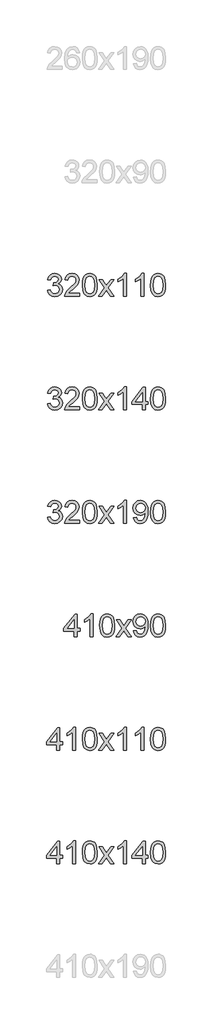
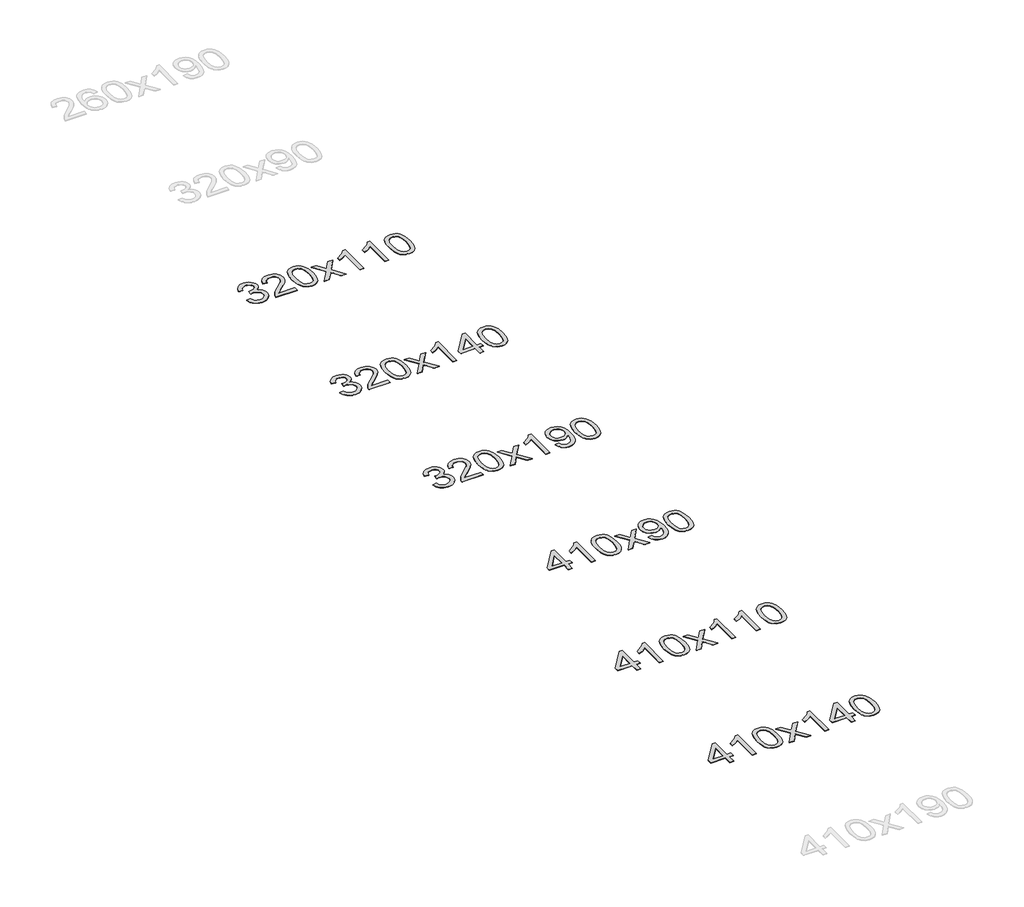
# One storey, part 11 of 17: 6 proxies.
"""IFC4 building model written with IfcOpenShell, lengths in millimetres."""

from ifc_helpers import new_model, si_unit, origin, origin_with_axes, place, context, project, spatial, polyline, outline, extrude, element, save

model = new_model("IFC4")

# Units and contexts
model_context = context("Model", 3, world=origin())
ifc_project = project(units=[si_unit("LENGTHUNIT", "METRE", prefix="MILLI")], contexts=[model_context])

# Site, building, storey
site = spatial("IfcSite", under=ifc_project)
building = spatial("IfcBuilding", under=site)
storey = spatial("IfcBuildingStorey", under=building, Name="Уровень 1", Elevation=0.0)

# Proxies
placement = place(None, origin())
element("IfcBuildingElementProxy", 1, Name="Текст модели 1", ObjectType="Текст модели 1", at=placement, inside=storey, context=model_context, shape_type="SweptSolid", body=[
    extrude(outline(polyline([(34258.5685798, -7399.8750555), (34283.6826573, -7396.7357958), (34289.3051205, -7412.5179334), (34297.5395458, -7423.1742485), (34308.7906035, -7429.2443014), (34323.4629637, -7431.2676524), (34340.6798411, -7428.484012), (34353.9726439, -7420.1330907), (34362.470718, -7407.6741538), (34365.3034093, -7392.5664665), (34362.4952434, -7378.2252001), (34354.0707457, -7366.5939977), (34341.3175032, -7358.8868699), (34325.5231029, -7356.3178273), (34307.9138181, -7359.0646795), (34310.7097212, -7333.9506019), (34314.7318977, -7334.2449075), (34329.7782713, -7332.4422858), (34343.2304896, -7327.0344204), (34352.7218451, -7317.8864215), (34355.8856302, -7304.8633989), (34353.5924991, -7294.0170114), (34346.7131058, -7285.2185003), (34336.2162062, -7279.3875707), (34323.0705563, -7277.4439275), (34309.9003808, -7279.4059648), (34299.1337011, -7285.2920767), (34291.2732892, -7295.1022633), (34286.821917, -7308.8365244), (34261.7078395, -7305.6972647), (34269.1022676, -7283.1460984), (34282.2601803, -7266.3093658), (34300.2618726, -7255.8247289), (34322.1876395, -7252.3298499), (34337.9759084, -7254.052764), (34352.4765904, -7259.221506), (34364.7025354, -7267.3762236), (34373.6665933, -7278.0570641), (34379.1664292, -7290.3627169), (34380.9997078, -7303.3918709), (34379.2583997, -7315.5319767), (34374.0344753, -7326.5439111), (34365.4015112, -7335.924902), (34353.4330836, -7343.1721773), (34369.1539075, -7349.5242731), (34380.8035041, -7360.3400037), (34388.0139912, -7375.0307581), (34390.4174869, -7393.0079249), (34385.6104955, -7417.4843403), (34371.1895212, -7437.9385792), (34349.4231699, -7451.7709423), (34322.5800469, -7456.3817299), (34298.2998353, -7452.4453926), (34278.5323094, -7440.6363805), (34264.7857855, -7422.5733746), (34258.5685798, -7399.8750555)])), origin_with_axes(), (0.0, 0.0, 1.0), 2.0),
    extrude(outline(polyline([(34541.1019521, -7428.1283927), (34541.1019521, -7453.2424702), (34409.253045, -7453.2424702), (34411.9508463, -7435.927491), (34427.2056864, -7409.2683091), (34458.6473342, -7380.1565805), (34502.0083587, -7338.316135), (34510.1385508, -7323.8951607), (34512.8486149, -7309.866594), (34510.291835, -7297.2911611), (34502.6214954, -7286.8371811), (34490.8308774, -7279.7922409), (34475.9132625, -7277.4439275), (34460.2476209, -7279.7370586), (34448.0768582, -7286.6164519), (34440.2225776, -7297.5425472), (34437.5063822, -7311.9757841), (34412.3923047, -7308.8365244), (34418.4807517, -7284.54405), (34431.6447958, -7266.7998751), (34451.1977238, -7255.9473562), (34476.4528228, -7252.3298499), (34501.8918628, -7256.3520264), (34521.4080026, -7268.4185559), (34533.8240199, -7286.4447736), (34537.9626924, -7308.3460151), (34533.4990575, -7332.1602429), (34518.6611504, -7356.7838111), (34482.6822912, -7391.1930404), (34453.7912919, -7415.3506247), (34442.4605264, -7428.1283927), (34541.1019521, -7428.1283927)])), origin_with_axes(), (0.0, 0.0, 1.0), 2.0),
    extrude(outline(polyline([(34566.2160296, -7354.4048409), (34568.061571, -7322.2458231), (34573.598195, -7296.5983167), (34582.7707194, -7277.0699141), (34595.5239619, -7263.2682079), (34611.949893, -7255.0644394), (34632.1404832, -7252.3298499), (34647.6160524, -7253.9485307), (34661.4729409, -7258.8045731), (34673.0612238, -7266.7079046), (34681.7309761, -7277.468453), (34693.5032, -7307.1933182), (34698.0649367, -7354.4048409), (34696.2377894, -7386.3799176), (34690.7563477, -7411.9661104), (34681.6390056, -7431.5129071), (34668.9041572, -7445.3697956), (34652.4414379, -7453.6287463), (34632.1404832, -7456.3817299), (34606.045387, -7451.599264), (34586.2288102, -7437.2518662), (34577.4732187, -7422.1227191), (34571.2192248, -7403.2718326), (34566.2160296, -7354.4048409)]), holes=[polyline([(34591.3301072, -7354.3557899), (34594.2731631, -7393.8601849), (34603.102331, -7416.7240509), (34616.247981, -7427.631752), (34632.1404832, -7431.2676524), (34648.0329853, -7427.6194893), (34661.1786353, -7416.6749999), (34670.0078032, -7393.7988712), (34672.9508592, -7354.3557899), (34670.1059051, -7315.7404432), (34661.5710428, -7292.6987676), (34648.4499183, -7281.2576375), (34631.8461776, -7277.4439275), (34616.1253536, -7280.8039164), (34603.4947385, -7290.883883), (34594.371265, -7315.3602985), (34591.3301072, -7354.3557899)])]), origin_with_axes(), (0.0, 0.0, 1.0), 2.0),
    extrude(outline(polyline([(34710.6219755, -7453.2424702), (34764.2836958, -7379.07746), (34713.7612352, -7305.6972647), (34743.9766097, -7305.6972647), (34768.3549232, -7341.0139363), (34779.7347396, -7357.6912534), (34789.5939771, -7344.0550941), (34817.356805, -7305.6972647), (34847.5721795, -7305.6972647), (34794.4990704, -7379.07746), (34845.6101422, -7453.2424702), (34815.3947677, -7453.2424702), (34784.6398329, -7408.6551724), (34778.9989756, -7400.5127176), (34740.83735, -7453.2424702), (34710.6219755, -7453.2424702)])), origin_with_axes(), (0.0, 0.0, 1.0), 2.0),
    extrude(outline(polyline([(34955.4842314, -7453.2424702), (34930.3701539, -7453.2424702), (34930.3701539, -7296.6718931), (34906.5804516, -7313.6189903), (34880.1419988, -7326.2986564), (34880.1419988, -7302.558005), (34916.9547238, -7279.0626083), (34930.4253362, -7265.4877626), (34939.2974237, -7252.3298499), (34955.4842314, -7252.3298499), (34955.4842314, -7453.2424702)])), origin_with_axes(), (0.0, 0.0, 1.0), 2.0),
    extrude(outline(polyline([(35096.7509176, -7453.2424702), (35096.7509176, -7406.1535749), (35005.7123865, -7406.1535749), (35005.7123865, -7381.0394973), (35103.029437, -7255.4691096), (35121.8649951, -7255.4691096), (35121.8649951, -7381.0394973), (35146.9790727, -7381.0394973), (35146.9790727, -7406.1535749), (35121.8649951, -7406.1535749), (35121.8649951, -7453.2424702), (35096.7509176, -7453.2424702)]), holes=[polyline([(35096.7509176, -7381.0394973), (35096.7509176, -7303.4409218), (35036.6144741, -7381.0394973), (35096.7509176, -7381.0394973)])]), origin_with_axes(), (0.0, 0.0, 1.0), 2.0),
    extrude(outline(polyline([(35168.9538905, -7354.4048409), (35170.7994319, -7322.2458231), (35176.3360559, -7296.5983167), (35185.5085803, -7277.0699141), (35198.2618228, -7263.2682079), (35214.6877539, -7255.0644394), (35234.8783441, -7252.3298499), (35250.3539133, -7253.9485307), (35264.2108018, -7258.8045731), (35275.7990847, -7266.7079046), (35284.468837, -7277.468453), (35296.2410608, -7307.1933182), (35300.8027976, -7354.4048409), (35298.9756503, -7386.3799176), (35293.4942086, -7411.9661104), (35284.3768665, -7431.5129071), (35271.6420181, -7445.3697956), (35255.1792988, -7453.6287463), (35234.8783441, -7456.3817299), (35208.7832479, -7451.599264), (35188.9666711, -7437.2518662), (35180.2110796, -7422.1227191), (35173.9570857, -7403.2718326), (35168.9538905, -7354.4048409)]), holes=[polyline([(35194.0679681, -7354.3557899), (35197.011024, -7393.8601849), (35205.8401919, -7416.7240509), (35218.9858419, -7427.631752), (35234.8783441, -7431.2676524), (35250.7708462, -7427.6194893), (35263.9164962, -7416.6749999), (35272.7456641, -7393.7988712), (35275.6887201, -7354.3557899), (35272.843766, -7315.7404432), (35264.3089037, -7292.6987676), (35251.1877792, -7281.2576375), (35234.5840385, -7277.4439275), (35218.8632145, -7280.8039164), (35206.2325994, -7290.883883), (35197.1091259, -7315.3602985), (35194.0679681, -7354.3557899)])]), origin_with_axes(), (0.0, 0.0, 1.0), 2.0),
])
element("IfcBuildingElementProxy", 2, Name="Текст модели 1", ObjectType="Текст модели 1", at=placement, inside=storey, context=model_context, shape_type="SweptSolid", body=[
    extrude(outline(polyline([(34258.5685798, -8399.8750555), (34283.6826573, -8396.7357958), (34289.3051205, -8412.5179334), (34297.5395458, -8423.1742485), (34308.7906035, -8429.2443014), (34323.4629637, -8431.2676524), (34340.6798411, -8428.484012), (34353.9726439, -8420.1330907), (34362.470718, -8407.6741538), (34365.3034093, -8392.5664665), (34362.4952434, -8378.2252001), (34354.0707457, -8366.5939977), (34341.3175032, -8358.8868699), (34325.5231029, -8356.3178273), (34307.9138181, -8359.0646795), (34310.7097212, -8333.9506019), (34314.7318977, -8334.2449075), (34329.7782713, -8332.4422858), (34343.2304896, -8327.0344204), (34352.7218451, -8317.8864215), (34355.8856302, -8304.8633989), (34353.5924991, -8294.0170114), (34346.7131058, -8285.2185003), (34336.2162062, -8279.3875707), (34323.0705563, -8277.4439275), (34309.9003808, -8279.4059648), (34299.1337011, -8285.2920767), (34291.2732892, -8295.1022633), (34286.821917, -8308.8365244), (34261.7078395, -8305.6972647), (34269.1022676, -8283.1460984), (34282.2601803, -8266.3093658), (34300.2618726, -8255.8247289), (34322.1876395, -8252.3298499), (34337.9759084, -8254.052764), (34352.4765904, -8259.221506), (34364.7025354, -8267.3762236), (34373.6665933, -8278.0570641), (34379.1664292, -8290.3627169), (34380.9997078, -8303.3918709), (34379.2583997, -8315.5319767), (34374.0344753, -8326.5439111), (34365.4015112, -8335.924902), (34353.4330836, -8343.1721773), (34369.1539075, -8349.5242731), (34380.8035041, -8360.3400037), (34388.0139912, -8375.0307581), (34390.4174869, -8393.0079249), (34385.6104955, -8417.4843403), (34371.1895212, -8437.9385792), (34349.4231699, -8451.7709423), (34322.5800469, -8456.3817299), (34298.2998353, -8452.4453926), (34278.5323094, -8440.6363805), (34264.7857855, -8422.5733746), (34258.5685798, -8399.8750555)])), origin_with_axes(), (0.0, 0.0, 1.0), 2.0),
    extrude(outline(polyline([(34541.1019521, -8428.1283927), (34541.1019521, -8453.2424702), (34409.253045, -8453.2424702), (34411.9508463, -8435.927491), (34427.2056864, -8409.2683091), (34458.6473342, -8380.1565805), (34502.0083587, -8338.316135), (34510.1385508, -8323.8951607), (34512.8486149, -8309.866594), (34510.291835, -8297.2911611), (34502.6214954, -8286.8371811), (34490.8308774, -8279.7922409), (34475.9132625, -8277.4439275), (34460.2476209, -8279.7370586), (34448.0768582, -8286.6164519), (34440.2225776, -8297.5425472), (34437.5063822, -8311.9757841), (34412.3923047, -8308.8365244), (34418.4807517, -8284.54405), (34431.6447958, -8266.7998751), (34451.1977238, -8255.9473562), (34476.4528228, -8252.3298499), (34501.8918628, -8256.3520264), (34521.4080026, -8268.4185559), (34533.8240199, -8286.4447736), (34537.9626924, -8308.3460151), (34533.4990575, -8332.1602429), (34518.6611504, -8356.7838111), (34482.6822912, -8391.1930404), (34453.7912919, -8415.3506247), (34442.4605264, -8428.1283927), (34541.1019521, -8428.1283927)])), origin_with_axes(), (0.0, 0.0, 1.0), 2.0),
    extrude(outline(polyline([(34566.2160296, -8354.4048409), (34568.061571, -8322.2458231), (34573.598195, -8296.5983167), (34582.7707194, -8277.0699141), (34595.5239619, -8263.2682079), (34611.949893, -8255.0644394), (34632.1404832, -8252.3298499), (34647.6160524, -8253.9485307), (34661.4729409, -8258.8045731), (34673.0612238, -8266.7079046), (34681.7309761, -8277.468453), (34693.5032, -8307.1933182), (34698.0649367, -8354.4048409), (34696.2377894, -8386.3799176), (34690.7563477, -8411.9661104), (34681.6390056, -8431.5129071), (34668.9041572, -8445.3697956), (34652.4414379, -8453.6287463), (34632.1404832, -8456.3817299), (34606.045387, -8451.599264), (34586.2288102, -8437.2518662), (34577.4732187, -8422.1227191), (34571.2192248, -8403.2718326), (34566.2160296, -8354.4048409)]), holes=[polyline([(34591.3301072, -8354.3557899), (34594.2731631, -8393.8601849), (34603.102331, -8416.7240509), (34616.247981, -8427.631752), (34632.1404832, -8431.2676524), (34648.0329853, -8427.6194893), (34661.1786353, -8416.6749999), (34670.0078032, -8393.7988712), (34672.9508592, -8354.3557899), (34670.1059051, -8315.7404432), (34661.5710428, -8292.6987676), (34648.4499183, -8281.2576375), (34631.8461776, -8277.4439275), (34616.1253536, -8280.8039164), (34603.4947385, -8290.883883), (34594.371265, -8315.3602985), (34591.3301072, -8354.3557899)])]), origin_with_axes(), (0.0, 0.0, 1.0), 2.0),
    extrude(outline(polyline([(34710.6219755, -8453.2424702), (34764.2836958, -8379.07746), (34713.7612352, -8305.6972647), (34743.9766097, -8305.6972647), (34768.3549232, -8341.0139363), (34779.7347396, -8357.6912534), (34789.5939771, -8344.0550941), (34817.356805, -8305.6972647), (34847.5721795, -8305.6972647), (34794.4990704, -8379.07746), (34845.6101422, -8453.2424702), (34815.3947677, -8453.2424702), (34784.6398329, -8408.6551724), (34778.9989756, -8400.5127176), (34740.83735, -8453.2424702), (34710.6219755, -8453.2424702)])), origin_with_axes(), (0.0, 0.0, 1.0), 2.0),
    extrude(outline(polyline([(34955.4842314, -8453.2424702), (34930.3701539, -8453.2424702), (34930.3701539, -8296.6718931), (34906.5804516, -8313.6189903), (34880.1419988, -8326.2986564), (34880.1419988, -8302.558005), (34916.9547238, -8279.0626083), (34930.4253362, -8265.4877626), (34939.2974237, -8252.3298499), (34955.4842314, -8252.3298499), (34955.4842314, -8453.2424702)])), origin_with_axes(), (0.0, 0.0, 1.0), 2.0),
    extrude(outline(polyline([(35018.2694253, -8403.0143152), (35043.3835028, -8399.8750555), (35047.6754594, -8414.1304828), (35054.6652173, -8423.8364361), (35064.1810983, -8429.4098483), (35076.051424, -8431.2676524), (35096.3830356, -8426.4851865), (35110.1663477, -8413.7074185), (35118.3823789, -8391.8797535), (35122.0121479, -8362.7434994), (35121.8649951, -8357.8384062), (35113.1645859, -8368.4579331), (35101.7786382, -8376.870168), (35088.528755, -8382.3516098), (35074.2365395, -8384.178757), (35051.3358853, -8379.7151221), (35032.2734666, -8366.3242175), (35019.4159908, -8345.6369867), (35015.1301656, -8319.2843731), (35019.6244573, -8292.0611054), (35033.1073324, -8270.7239497), (35053.3592363, -8256.9283749), (35078.1606141, -8252.3298499), (35096.891939, -8254.9540748), (35113.9432695, -8262.8267495), (35128.2048282, -8275.5554666), (35138.5668377, -8292.7478185), (35144.8760139, -8316.5129954), (35146.9790727, -8348.9601873), (35144.8821453, -8383.3632853), (35138.5913632, -8409.9550221), (35128.1619086, -8429.9371459), (35113.6489639, -8444.5114042), (35095.6779284, -8453.4141485), (35074.8742016, -8456.3817299), (35053.4021558, -8452.8807196), (35036.2711176, -8442.3776887), (35024.2904273, -8425.5348246), (35018.2694253, -8403.0143152)]), holes=[polyline([(35121.8649951, -8318.6957619), (35119.1549311, -8301.6750882), (35111.024739, -8288.5784892), (35098.4063866, -8280.2275679), (35082.2318415, -8277.4439275), (35065.4564225, -8280.4421657), (35052.016467, -8289.4368805), (35043.1872991, -8303.2017985), (35040.2442431, -8320.5106464), (35043.0278836, -8336.0291352), (35051.3788049, -8348.3470507), (35064.4876666, -8356.3852723), (35081.5451285, -8359.0646795), (35097.5909148, -8356.3852723), (35110.5097042, -8348.3470507), (35119.0261724, -8335.5754141), (35121.8649951, -8318.6957619)])]), origin_with_axes(), (0.0, 0.0, 1.0), 2.0),
    extrude(outline(polyline([(35168.9538905, -8354.4048409), (35170.7994319, -8322.2458231), (35176.3360559, -8296.5983167), (35185.5085803, -8277.0699141), (35198.2618228, -8263.2682079), (35214.6877539, -8255.0644394), (35234.8783441, -8252.3298499), (35250.3539133, -8253.9485307), (35264.2108018, -8258.8045731), (35275.7990847, -8266.7079046), (35284.468837, -8277.468453), (35296.2410608, -8307.1933182), (35300.8027976, -8354.4048409), (35298.9756503, -8386.3799176), (35293.4942086, -8411.9661104), (35284.3768665, -8431.5129071), (35271.6420181, -8445.3697956), (35255.1792988, -8453.6287463), (35234.8783441, -8456.3817299), (35208.7832479, -8451.599264), (35188.9666711, -8437.2518662), (35180.2110796, -8422.1227191), (35173.9570857, -8403.2718326), (35168.9538905, -8354.4048409)]), holes=[polyline([(35194.0679681, -8354.3557899), (35197.011024, -8393.8601849), (35205.8401919, -8416.7240509), (35218.9858419, -8427.631752), (35234.8783441, -8431.2676524), (35250.7708462, -8427.6194893), (35263.9164962, -8416.6749999), (35272.7456641, -8393.7988712), (35275.6887201, -8354.3557899), (35272.843766, -8315.7404432), (35264.3089037, -8292.6987676), (35251.1877792, -8281.2576375), (35234.5840385, -8277.4439275), (35218.8632145, -8280.8039164), (35206.2325994, -8290.883883), (35197.1091259, -8315.3602985), (35194.0679681, -8354.3557899)])]), origin_with_axes(), (0.0, 0.0, 1.0), 2.0),
])
element("IfcBuildingElementProxy", 3, Name="Текст модели 1", ObjectType="Текст модели 1", at=placement, inside=storey, context=model_context, shape_type="SweptSolid", body=[
    extrude(outline(polyline([(34340.1893318, -11453.2424702), (34340.1893318, -11406.1535749), (34249.1508007, -11406.1535749), (34249.1508007, -11381.0394973), (34346.4678512, -11255.4691096), (34365.3034093, -11255.4691096), (34365.3034093, -11381.0394973), (34390.4174869, -11381.0394973), (34390.4174869, -11406.1535749), (34365.3034093, -11406.1535749), (34365.3034093, -11453.2424702), (34340.1893318, -11453.2424702)]), holes=[polyline([(34340.1893318, -11381.0394973), (34340.1893318, -11303.4409218), (34280.0528883, -11381.0394973), (34340.1893318, -11381.0394973)])]), origin_with_axes(), (0.0, 0.0, 1.0), 2.0),
    extrude(outline(polyline([(34506.5700955, -11453.2424702), (34481.4560179, -11453.2424702), (34481.4560179, -11296.6718931), (34457.6663156, -11313.6189903), (34431.2278629, -11326.2986564), (34431.2278629, -11302.558005), (34468.0405878, -11279.0626083), (34481.5112002, -11265.4877626), (34490.3832877, -11252.3298499), (34506.5700955, -11252.3298499), (34506.5700955, -11453.2424702)])), origin_with_axes(), (0.0, 0.0, 1.0), 2.0),
    extrude(outline(polyline([(34566.2160296, -11354.4048409), (34568.061571, -11322.2458231), (34573.598195, -11296.5983167), (34582.7707194, -11277.0699141), (34595.5239619, -11263.2682079), (34611.949893, -11255.0644394), (34632.1404832, -11252.3298499), (34647.6160524, -11253.9485307), (34661.4729409, -11258.8045731), (34673.0612238, -11266.7079046), (34681.7309761, -11277.468453), (34693.5032, -11307.1933182), (34698.0649367, -11354.4048409), (34696.2377894, -11386.3799176), (34690.7563477, -11411.9661104), (34681.6390056, -11431.5129071), (34668.9041572, -11445.3697956), (34652.4414379, -11453.6287463), (34632.1404832, -11456.3817299), (34606.045387, -11451.599264), (34586.2288102, -11437.2518662), (34577.4732187, -11422.1227191), (34571.2192248, -11403.2718326), (34566.2160296, -11354.4048409)]), holes=[polyline([(34591.3301072, -11354.3557899), (34594.2731631, -11393.8601849), (34603.102331, -11416.7240509), (34616.247981, -11427.631752), (34632.1404832, -11431.2676524), (34648.0329853, -11427.6194893), (34661.1786353, -11416.6749999), (34670.0078032, -11393.7988712), (34672.9508592, -11354.3557899), (34670.1059051, -11315.7404432), (34661.5710428, -11292.6987676), (34648.4499183, -11281.2576375), (34631.8461776, -11277.4439275), (34616.1253536, -11280.8039164), (34603.4947385, -11290.883883), (34594.371265, -11315.3602985), (34591.3301072, -11354.3557899)])]), origin_with_axes(), (0.0, 0.0, 1.0), 2.0),
    extrude(outline(polyline([(34710.6219755, -11453.2424702), (34764.2836958, -11379.07746), (34713.7612352, -11305.6972647), (34743.9766097, -11305.6972647), (34768.3549232, -11341.0139363), (34779.7347396, -11357.6912534), (34789.5939771, -11344.0550941), (34817.356805, -11305.6972647), (34847.5721795, -11305.6972647), (34794.4990704, -11379.07746), (34845.6101422, -11453.2424702), (34815.3947677, -11453.2424702), (34784.6398329, -11408.6551724), (34778.9989756, -11400.5127176), (34740.83735, -11453.2424702), (34710.6219755, -11453.2424702)])), origin_with_axes(), (0.0, 0.0, 1.0), 2.0),
    extrude(outline(polyline([(34955.4842314, -11453.2424702), (34930.3701539, -11453.2424702), (34930.3701539, -11296.6718931), (34906.5804516, -11313.6189903), (34880.1419988, -11326.2986564), (34880.1419988, -11302.558005), (34916.9547238, -11279.0626083), (34930.4253362, -11265.4877626), (34939.2974237, -11252.3298499), (34955.4842314, -11252.3298499), (34955.4842314, -11453.2424702)])), origin_with_axes(), (0.0, 0.0, 1.0), 2.0),
    extrude(outline(polyline([(35096.7509176, -11453.2424702), (35096.7509176, -11406.1535749), (35005.7123865, -11406.1535749), (35005.7123865, -11381.0394973), (35103.029437, -11255.4691096), (35121.8649951, -11255.4691096), (35121.8649951, -11381.0394973), (35146.9790727, -11381.0394973), (35146.9790727, -11406.1535749), (35121.8649951, -11406.1535749), (35121.8649951, -11453.2424702), (35096.7509176, -11453.2424702)]), holes=[polyline([(35096.7509176, -11381.0394973), (35096.7509176, -11303.4409218), (35036.6144741, -11381.0394973), (35096.7509176, -11381.0394973)])]), origin_with_axes(), (0.0, 0.0, 1.0), 2.0),
    extrude(outline(polyline([(35168.9538905, -11354.4048409), (35170.7994319, -11322.2458231), (35176.3360559, -11296.5983167), (35185.5085803, -11277.0699141), (35198.2618228, -11263.2682079), (35214.6877539, -11255.0644394), (35234.8783441, -11252.3298499), (35250.3539133, -11253.9485307), (35264.2108018, -11258.8045731), (35275.7990847, -11266.7079046), (35284.468837, -11277.468453), (35296.2410608, -11307.1933182), (35300.8027976, -11354.4048409), (35298.9756503, -11386.3799176), (35293.4942086, -11411.9661104), (35284.3768665, -11431.5129071), (35271.6420181, -11445.3697956), (35255.1792988, -11453.6287463), (35234.8783441, -11456.3817299), (35208.7832479, -11451.599264), (35188.9666711, -11437.2518662), (35180.2110796, -11422.1227191), (35173.9570857, -11403.2718326), (35168.9538905, -11354.4048409)]), holes=[polyline([(35194.0679681, -11354.3557899), (35197.011024, -11393.8601849), (35205.8401919, -11416.7240509), (35218.9858419, -11427.631752), (35234.8783441, -11431.2676524), (35250.7708462, -11427.6194893), (35263.9164962, -11416.6749999), (35272.7456641, -11393.7988712), (35275.6887201, -11354.3557899), (35272.843766, -11315.7404432), (35264.3089037, -11292.6987676), (35251.1877792, -11281.2576375), (35234.5840385, -11277.4439275), (35218.8632145, -11280.8039164), (35206.2325994, -11290.883883), (35197.1091259, -11315.3602985), (35194.0679681, -11354.3557899)])]), origin_with_axes(), (0.0, 0.0, 1.0), 2.0),
])
element("IfcBuildingElementProxy", 4, Name="Текст модели 1", ObjectType="Текст модели 1", at=placement, inside=storey, context=model_context, shape_type="SweptSolid", body=[
    extrude(outline(polyline([(34258.5685798, -6399.8750555), (34283.6826573, -6396.7357958), (34289.3051205, -6412.5179334), (34297.5395458, -6423.1742485), (34308.7906035, -6429.2443014), (34323.4629637, -6431.2676524), (34340.6798411, -6428.484012), (34353.9726439, -6420.1330907), (34362.470718, -6407.6741538), (34365.3034093, -6392.5664665), (34362.4952434, -6378.2252001), (34354.0707457, -6366.5939977), (34341.3175032, -6358.8868699), (34325.5231029, -6356.3178273), (34307.9138181, -6359.0646795), (34310.7097212, -6333.9506019), (34314.7318977, -6334.2449075), (34329.7782713, -6332.4422858), (34343.2304896, -6327.0344204), (34352.7218451, -6317.8864215), (34355.8856302, -6304.8633989), (34353.5924991, -6294.0170114), (34346.7131058, -6285.2185003), (34336.2162062, -6279.3875707), (34323.0705563, -6277.4439275), (34309.9003808, -6279.4059648), (34299.1337011, -6285.2920767), (34291.2732892, -6295.1022633), (34286.821917, -6308.8365244), (34261.7078395, -6305.6972647), (34269.1022676, -6283.1460984), (34282.2601803, -6266.3093658), (34300.2618726, -6255.8247289), (34322.1876395, -6252.3298499), (34337.9759084, -6254.052764), (34352.4765904, -6259.221506), (34364.7025354, -6267.3762236), (34373.6665933, -6278.0570641), (34379.1664292, -6290.3627169), (34380.9997078, -6303.3918709), (34379.2583997, -6315.5319767), (34374.0344753, -6326.5439111), (34365.4015112, -6335.924902), (34353.4330836, -6343.1721773), (34369.1539075, -6349.5242731), (34380.8035041, -6360.3400037), (34388.0139912, -6375.0307581), (34390.4174869, -6393.0079249), (34385.6104955, -6417.4843403), (34371.1895212, -6437.9385792), (34349.4231699, -6451.7709423), (34322.5800469, -6456.3817299), (34298.2998353, -6452.4453926), (34278.5323094, -6440.6363805), (34264.7857855, -6422.5733746), (34258.5685798, -6399.8750555)])), origin_with_axes(), (0.0, 0.0, 1.0), 2.0),
    extrude(outline(polyline([(34541.1019521, -6428.1283927), (34541.1019521, -6453.2424702), (34409.253045, -6453.2424702), (34411.9508463, -6435.927491), (34427.2056864, -6409.2683091), (34458.6473342, -6380.1565805), (34502.0083587, -6338.316135), (34510.1385508, -6323.8951607), (34512.8486149, -6309.866594), (34510.291835, -6297.2911611), (34502.6214954, -6286.8371811), (34490.8308774, -6279.7922409), (34475.9132625, -6277.4439275), (34460.2476209, -6279.7370586), (34448.0768582, -6286.6164519), (34440.2225776, -6297.5425472), (34437.5063822, -6311.9757841), (34412.3923047, -6308.8365244), (34418.4807517, -6284.54405), (34431.6447958, -6266.7998751), (34451.1977238, -6255.9473562), (34476.4528228, -6252.3298499), (34501.8918628, -6256.3520264), (34521.4080026, -6268.4185559), (34533.8240199, -6286.4447736), (34537.9626924, -6308.3460151), (34533.4990575, -6332.1602429), (34518.6611504, -6356.7838111), (34482.6822912, -6391.1930404), (34453.7912919, -6415.3506247), (34442.4605264, -6428.1283927), (34541.1019521, -6428.1283927)])), origin_with_axes(), (0.0, 0.0, 1.0), 2.0),
    extrude(outline(polyline([(34566.2160296, -6354.4048409), (34568.061571, -6322.2458231), (34573.598195, -6296.5983167), (34582.7707194, -6277.0699141), (34595.5239619, -6263.2682079), (34611.949893, -6255.0644394), (34632.1404832, -6252.3298499), (34647.6160524, -6253.9485307), (34661.4729409, -6258.8045731), (34673.0612238, -6266.7079046), (34681.7309761, -6277.468453), (34693.5032, -6307.1933182), (34698.0649367, -6354.4048409), (34696.2377894, -6386.3799176), (34690.7563477, -6411.9661104), (34681.6390056, -6431.5129071), (34668.9041572, -6445.3697956), (34652.4414379, -6453.6287463), (34632.1404832, -6456.3817299), (34606.045387, -6451.599264), (34586.2288102, -6437.2518662), (34577.4732187, -6422.1227191), (34571.2192248, -6403.2718326), (34566.2160296, -6354.4048409)]), holes=[polyline([(34591.3301072, -6354.3557899), (34594.2731631, -6393.8601849), (34603.102331, -6416.7240509), (34616.247981, -6427.631752), (34632.1404832, -6431.2676524), (34648.0329853, -6427.6194893), (34661.1786353, -6416.6749999), (34670.0078032, -6393.7988712), (34672.9508592, -6354.3557899), (34670.1059051, -6315.7404432), (34661.5710428, -6292.6987676), (34648.4499183, -6281.2576375), (34631.8461776, -6277.4439275), (34616.1253536, -6280.8039164), (34603.4947385, -6290.883883), (34594.371265, -6315.3602985), (34591.3301072, -6354.3557899)])]), origin_with_axes(), (0.0, 0.0, 1.0), 2.0),
    extrude(outline(polyline([(34710.6219755, -6453.2424702), (34764.2836958, -6379.07746), (34713.7612352, -6305.6972647), (34743.9766097, -6305.6972647), (34768.3549232, -6341.0139363), (34779.7347396, -6357.6912534), (34789.5939771, -6344.0550941), (34817.356805, -6305.6972647), (34847.5721795, -6305.6972647), (34794.4990704, -6379.07746), (34845.6101422, -6453.2424702), (34815.3947677, -6453.2424702), (34784.6398329, -6408.6551724), (34778.9989756, -6400.5127176), (34740.83735, -6453.2424702), (34710.6219755, -6453.2424702)])), origin_with_axes(), (0.0, 0.0, 1.0), 2.0),
    extrude(outline(polyline([(34955.4842314, -6453.2424702), (34930.3701539, -6453.2424702), (34930.3701539, -6296.6718931), (34906.5804516, -6313.6189903), (34880.1419988, -6326.2986564), (34880.1419988, -6302.558005), (34916.9547238, -6279.0626083), (34930.4253362, -6265.4877626), (34939.2974237, -6252.3298499), (34955.4842314, -6252.3298499), (34955.4842314, -6453.2424702)])), origin_with_axes(), (0.0, 0.0, 1.0), 2.0),
    extrude(outline(polyline([(35109.3079564, -6453.2424702), (35084.1938788, -6453.2424702), (35084.1938788, -6296.6718931), (35060.4041765, -6313.6189903), (35033.9657238, -6326.2986564), (35033.9657238, -6302.558005), (35070.7784487, -6279.0626083), (35084.2490611, -6265.4877626), (35093.1211486, -6252.3298499), (35109.3079564, -6252.3298499), (35109.3079564, -6453.2424702)])), origin_with_axes(), (0.0, 0.0, 1.0), 2.0),
    extrude(outline(polyline([(35168.9538905, -6354.4048409), (35170.7994319, -6322.2458231), (35176.3360559, -6296.5983167), (35185.5085803, -6277.0699141), (35198.2618228, -6263.2682079), (35214.6877539, -6255.0644394), (35234.8783441, -6252.3298499), (35250.3539133, -6253.9485307), (35264.2108018, -6258.8045731), (35275.7990847, -6266.7079046), (35284.468837, -6277.468453), (35296.2410608, -6307.1933182), (35300.8027976, -6354.4048409), (35298.9756503, -6386.3799176), (35293.4942086, -6411.9661104), (35284.3768665, -6431.5129071), (35271.6420181, -6445.3697956), (35255.1792988, -6453.6287463), (35234.8783441, -6456.3817299), (35208.7832479, -6451.599264), (35188.9666711, -6437.2518662), (35180.2110796, -6422.1227191), (35173.9570857, -6403.2718326), (35168.9538905, -6354.4048409)]), holes=[polyline([(35194.0679681, -6354.3557899), (35197.011024, -6393.8601849), (35205.8401919, -6416.7240509), (35218.9858419, -6427.631752), (35234.8783441, -6431.2676524), (35250.7708462, -6427.6194893), (35263.9164962, -6416.6749999), (35272.7456641, -6393.7988712), (35275.6887201, -6354.3557899), (35272.843766, -6315.7404432), (35264.3089037, -6292.6987676), (35251.1877792, -6281.2576375), (35234.5840385, -6277.4439275), (35218.8632145, -6280.8039164), (35206.2325994, -6290.883883), (35197.1091259, -6315.3602985), (35194.0679681, -6354.3557899)])]), origin_with_axes(), (0.0, 0.0, 1.0), 2.0),
])
element("IfcBuildingElementProxy", 5, Name="Текст модели 1", ObjectType="Текст модели 1", at=placement, inside=storey, context=model_context, shape_type="SweptSolid", body=[
    extrude(outline(polyline([(34494.0130567, -9453.2424702), (34494.0130567, -9406.1535749), (34402.9745256, -9406.1535749), (34402.9745256, -9381.0394973), (34500.2915761, -9255.4691096), (34519.1271342, -9255.4691096), (34519.1271342, -9381.0394973), (34544.2412118, -9381.0394973), (34544.2412118, -9406.1535749), (34519.1271342, -9406.1535749), (34519.1271342, -9453.2424702), (34494.0130567, -9453.2424702)]), holes=[polyline([(34494.0130567, -9381.0394973), (34494.0130567, -9303.4409218), (34433.8766132, -9381.0394973), (34494.0130567, -9381.0394973)])]), origin_with_axes(), (0.0, 0.0, 1.0), 2.0),
    extrude(outline(polyline([(34660.3938204, -9453.2424702), (34635.2797428, -9453.2424702), (34635.2797428, -9296.6718931), (34611.4900405, -9313.6189903), (34585.0515878, -9326.2986564), (34585.0515878, -9302.558005), (34621.8643128, -9279.0626083), (34635.3349251, -9265.4877626), (34644.2070126, -9252.3298499), (34660.3938204, -9252.3298499), (34660.3938204, -9453.2424702)])), origin_with_axes(), (0.0, 0.0, 1.0), 2.0),
    extrude(outline(polyline([(34720.0397545, -9354.4048409), (34721.8852959, -9322.2458231), (34727.4219199, -9296.5983167), (34736.5944443, -9277.0699141), (34749.3476868, -9263.2682079), (34765.7736179, -9255.0644394), (34785.9642081, -9252.3298499), (34801.4397773, -9253.9485307), (34815.2966658, -9258.8045731), (34826.8849487, -9266.7079046), (34835.554701, -9277.468453), (34847.3269249, -9307.1933182), (34851.8886616, -9354.4048409), (34850.0615144, -9386.3799176), (34844.5800726, -9411.9661104), (34835.4627305, -9431.5129071), (34822.7278821, -9445.3697956), (34806.2651628, -9453.6287463), (34785.9642081, -9456.3817299), (34759.8691119, -9451.599264), (34740.0525351, -9437.2518662), (34731.2969436, -9422.1227191), (34725.0429497, -9403.2718326), (34720.0397545, -9354.4048409)]), holes=[polyline([(34745.1538321, -9354.3557899), (34748.096888, -9393.8601849), (34756.9260559, -9416.7240509), (34770.0717059, -9427.631752), (34785.9642081, -9431.2676524), (34801.8567103, -9427.6194893), (34815.0023602, -9416.6749999), (34823.8315281, -9393.7988712), (34826.7745841, -9354.3557899), (34823.92963, -9315.7404432), (34815.3947677, -9292.6987676), (34802.2736432, -9281.2576375), (34785.6699025, -9277.4439275), (34769.9490785, -9280.8039164), (34757.3184634, -9290.883883), (34748.1949899, -9315.3602985), (34745.1538321, -9354.3557899)])]), origin_with_axes(), (0.0, 0.0, 1.0), 2.0),
    extrude(outline(polyline([(34864.4457004, -9453.2424702), (34918.1074207, -9379.07746), (34867.5849601, -9305.6972647), (34897.8003346, -9305.6972647), (34922.1786482, -9341.0139363), (34933.5584645, -9357.6912534), (34943.417702, -9344.0550941), (34971.1805299, -9305.6972647), (35001.3959044, -9305.6972647), (34948.3227953, -9379.07746), (34999.4338671, -9453.2424702), (34969.2184926, -9453.2424702), (34938.4635578, -9408.6551724), (34932.8227005, -9400.5127176), (34894.6610749, -9453.2424702), (34864.4457004, -9453.2424702)])), origin_with_axes(), (0.0, 0.0, 1.0), 2.0),
    extrude(outline(polyline([(35018.2694253, -9403.0143152), (35043.3835028, -9399.8750555), (35047.6754594, -9414.1304828), (35054.6652173, -9423.8364361), (35064.1810983, -9429.4098483), (35076.051424, -9431.2676524), (35096.3830356, -9426.4851865), (35110.1663477, -9413.7074185), (35118.3823789, -9391.8797535), (35122.0121479, -9362.7434994), (35121.8649951, -9357.8384062), (35113.1645859, -9368.4579331), (35101.7786382, -9376.870168), (35088.528755, -9382.3516098), (35074.2365395, -9384.178757), (35051.3358853, -9379.7151221), (35032.2734666, -9366.3242175), (35019.4159908, -9345.6369867), (35015.1301656, -9319.2843731), (35019.6244573, -9292.0611054), (35033.1073324, -9270.7239497), (35053.3592363, -9256.9283749), (35078.1606141, -9252.3298499), (35096.891939, -9254.9540748), (35113.9432695, -9262.8267495), (35128.2048282, -9275.5554666), (35138.5668377, -9292.7478185), (35144.8760139, -9316.5129954), (35146.9790727, -9348.9601873), (35144.8821453, -9383.3632853), (35138.5913632, -9409.9550221), (35128.1619086, -9429.9371459), (35113.6489639, -9444.5114042), (35095.6779284, -9453.4141485), (35074.8742016, -9456.3817299), (35053.4021558, -9452.8807196), (35036.2711176, -9442.3776887), (35024.2904273, -9425.5348246), (35018.2694253, -9403.0143152)]), holes=[polyline([(35121.8649951, -9318.6957619), (35119.1549311, -9301.6750882), (35111.024739, -9288.5784892), (35098.4063866, -9280.2275679), (35082.2318415, -9277.4439275), (35065.4564225, -9280.4421657), (35052.016467, -9289.4368805), (35043.1872991, -9303.2017985), (35040.2442431, -9320.5106464), (35043.0278836, -9336.0291352), (35051.3788049, -9348.3470507), (35064.4876666, -9356.3852723), (35081.5451285, -9359.0646795), (35097.5909148, -9356.3852723), (35110.5097042, -9348.3470507), (35119.0261724, -9335.5754141), (35121.8649951, -9318.6957619)])]), origin_with_axes(), (0.0, 0.0, 1.0), 2.0),
    extrude(outline(polyline([(35168.9538905, -9354.4048409), (35170.7994319, -9322.2458231), (35176.3360559, -9296.5983167), (35185.5085803, -9277.0699141), (35198.2618228, -9263.2682079), (35214.6877539, -9255.0644394), (35234.8783441, -9252.3298499), (35250.3539133, -9253.9485307), (35264.2108018, -9258.8045731), (35275.7990847, -9266.7079046), (35284.468837, -9277.468453), (35296.2410608, -9307.1933182), (35300.8027976, -9354.4048409), (35298.9756503, -9386.3799176), (35293.4942086, -9411.9661104), (35284.3768665, -9431.5129071), (35271.6420181, -9445.3697956), (35255.1792988, -9453.6287463), (35234.8783441, -9456.3817299), (35208.7832479, -9451.599264), (35188.9666711, -9437.2518662), (35180.2110796, -9422.1227191), (35173.9570857, -9403.2718326), (35168.9538905, -9354.4048409)]), holes=[polyline([(35194.0679681, -9354.3557899), (35197.011024, -9393.8601849), (35205.8401919, -9416.7240509), (35218.9858419, -9427.631752), (35234.8783441, -9431.2676524), (35250.7708462, -9427.6194893), (35263.9164962, -9416.6749999), (35272.7456641, -9393.7988712), (35275.6887201, -9354.3557899), (35272.843766, -9315.7404432), (35264.3089037, -9292.6987676), (35251.1877792, -9281.2576375), (35234.5840385, -9277.4439275), (35218.8632145, -9280.8039164), (35206.2325994, -9290.883883), (35197.1091259, -9315.3602985), (35194.0679681, -9354.3557899)])]), origin_with_axes(), (0.0, 0.0, 1.0), 2.0),
])
element("IfcBuildingElementProxy", 6, Name="Текст модели 1", ObjectType="Текст модели 1", at=placement, inside=storey, context=model_context, shape_type="SweptSolid", body=[
    extrude(outline(polyline([(34340.1893318, -10453.2424702), (34340.1893318, -10406.1535749), (34249.1508007, -10406.1535749), (34249.1508007, -10381.0394973), (34346.4678512, -10255.4691096), (34365.3034093, -10255.4691096), (34365.3034093, -10381.0394973), (34390.4174869, -10381.0394973), (34390.4174869, -10406.1535749), (34365.3034093, -10406.1535749), (34365.3034093, -10453.2424702), (34340.1893318, -10453.2424702)]), holes=[polyline([(34340.1893318, -10381.0394973), (34340.1893318, -10303.4409218), (34280.0528883, -10381.0394973), (34340.1893318, -10381.0394973)])]), origin_with_axes(), (0.0, 0.0, 1.0), 2.0),
    extrude(outline(polyline([(34506.5700955, -10453.2424702), (34481.4560179, -10453.2424702), (34481.4560179, -10296.6718931), (34457.6663156, -10313.6189903), (34431.2278629, -10326.2986564), (34431.2278629, -10302.558005), (34468.0405878, -10279.0626083), (34481.5112002, -10265.4877626), (34490.3832877, -10252.3298499), (34506.5700955, -10252.3298499), (34506.5700955, -10453.2424702)])), origin_with_axes(), (0.0, 0.0, 1.0), 2.0),
    extrude(outline(polyline([(34566.2160296, -10354.4048409), (34568.061571, -10322.2458231), (34573.598195, -10296.5983167), (34582.7707194, -10277.0699141), (34595.5239619, -10263.2682079), (34611.949893, -10255.0644394), (34632.1404832, -10252.3298499), (34647.6160524, -10253.9485307), (34661.4729409, -10258.8045731), (34673.0612238, -10266.7079046), (34681.7309761, -10277.468453), (34693.5032, -10307.1933182), (34698.0649367, -10354.4048409), (34696.2377894, -10386.3799176), (34690.7563477, -10411.9661104), (34681.6390056, -10431.5129071), (34668.9041572, -10445.3697956), (34652.4414379, -10453.6287463), (34632.1404832, -10456.3817299), (34606.045387, -10451.599264), (34586.2288102, -10437.2518662), (34577.4732187, -10422.1227191), (34571.2192248, -10403.2718326), (34566.2160296, -10354.4048409)]), holes=[polyline([(34591.3301072, -10354.3557899), (34594.2731631, -10393.8601849), (34603.102331, -10416.7240509), (34616.247981, -10427.631752), (34632.1404832, -10431.2676524), (34648.0329853, -10427.6194893), (34661.1786353, -10416.6749999), (34670.0078032, -10393.7988712), (34672.9508592, -10354.3557899), (34670.1059051, -10315.7404432), (34661.5710428, -10292.6987676), (34648.4499183, -10281.2576375), (34631.8461776, -10277.4439275), (34616.1253536, -10280.8039164), (34603.4947385, -10290.883883), (34594.371265, -10315.3602985), (34591.3301072, -10354.3557899)])]), origin_with_axes(), (0.0, 0.0, 1.0), 2.0),
    extrude(outline(polyline([(34710.6219755, -10453.2424702), (34764.2836958, -10379.07746), (34713.7612352, -10305.6972647), (34743.9766097, -10305.6972647), (34768.3549232, -10341.0139363), (34779.7347396, -10357.6912534), (34789.5939771, -10344.0550941), (34817.356805, -10305.6972647), (34847.5721795, -10305.6972647), (34794.4990704, -10379.07746), (34845.6101422, -10453.2424702), (34815.3947677, -10453.2424702), (34784.6398329, -10408.6551724), (34778.9989756, -10400.5127176), (34740.83735, -10453.2424702), (34710.6219755, -10453.2424702)])), origin_with_axes(), (0.0, 0.0, 1.0), 2.0),
    extrude(outline(polyline([(34955.4842314, -10453.2424702), (34930.3701539, -10453.2424702), (34930.3701539, -10296.6718931), (34906.5804516, -10313.6189903), (34880.1419988, -10326.2986564), (34880.1419988, -10302.558005), (34916.9547238, -10279.0626083), (34930.4253362, -10265.4877626), (34939.2974237, -10252.3298499), (34955.4842314, -10252.3298499), (34955.4842314, -10453.2424702)])), origin_with_axes(), (0.0, 0.0, 1.0), 2.0),
    extrude(outline(polyline([(35109.3079564, -10453.2424702), (35084.1938788, -10453.2424702), (35084.1938788, -10296.6718931), (35060.4041765, -10313.6189903), (35033.9657238, -10326.2986564), (35033.9657238, -10302.558005), (35070.7784487, -10279.0626083), (35084.2490611, -10265.4877626), (35093.1211486, -10252.3298499), (35109.3079564, -10252.3298499), (35109.3079564, -10453.2424702)])), origin_with_axes(), (0.0, 0.0, 1.0), 2.0),
    extrude(outline(polyline([(35168.9538905, -10354.4048409), (35170.7994319, -10322.2458231), (35176.3360559, -10296.5983167), (35185.5085803, -10277.0699141), (35198.2618228, -10263.2682079), (35214.6877539, -10255.0644394), (35234.8783441, -10252.3298499), (35250.3539133, -10253.9485307), (35264.2108018, -10258.8045731), (35275.7990847, -10266.7079046), (35284.468837, -10277.468453), (35296.2410608, -10307.1933182), (35300.8027976, -10354.4048409), (35298.9756503, -10386.3799176), (35293.4942086, -10411.9661104), (35284.3768665, -10431.5129071), (35271.6420181, -10445.3697956), (35255.1792988, -10453.6287463), (35234.8783441, -10456.3817299), (35208.7832479, -10451.599264), (35188.9666711, -10437.2518662), (35180.2110796, -10422.1227191), (35173.9570857, -10403.2718326), (35168.9538905, -10354.4048409)]), holes=[polyline([(35194.0679681, -10354.3557899), (35197.011024, -10393.8601849), (35205.8401919, -10416.7240509), (35218.9858419, -10427.631752), (35234.8783441, -10431.2676524), (35250.7708462, -10427.6194893), (35263.9164962, -10416.6749999), (35272.7456641, -10393.7988712), (35275.6887201, -10354.3557899), (35272.843766, -10315.7404432), (35264.3089037, -10292.6987676), (35251.1877792, -10281.2576375), (35234.5840385, -10277.4439275), (35218.8632145, -10280.8039164), (35206.2325994, -10290.883883), (35197.1091259, -10315.3602985), (35194.0679681, -10354.3557899)])]), origin_with_axes(), (0.0, 0.0, 1.0), 2.0),
])

save(model, "model.ifc")
